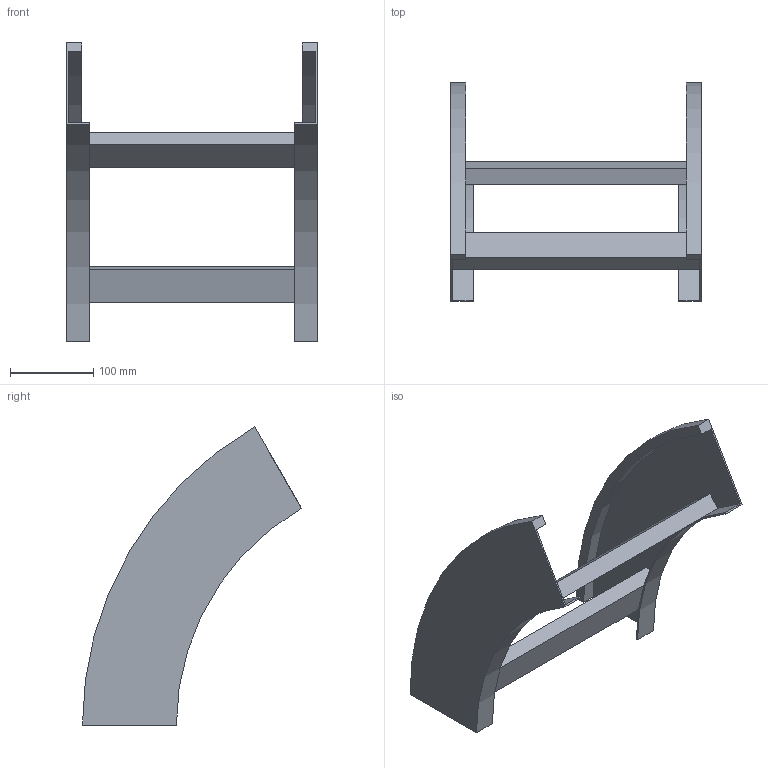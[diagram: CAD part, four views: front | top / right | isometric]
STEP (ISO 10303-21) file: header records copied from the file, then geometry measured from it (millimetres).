
FILE_DESCRIPTION (( 'STEP AP214' ), '1' );
FILE_NAME ('B2_41B3J300.step', '2025-02-21T14:58:50', ( '' ), ( '' ), 'SwSTEP 2.0', 'SolidWorks 2023', '' );
FILE_SCHEMA (( 'AUTOMOTIVE_DESIGN' ));
Length unit declared in the file: millimetre
Products named in the file (3): B2_LONGH.DISCESA_60°_H112.5_R300; B2_41B3J300; TRAVERSINO_300
Assembly tree (4 placements, depth 2):
  B2_41B3J300
    B2_LONGH.DISCESA_60°_H112.5_R300  x2
    TRAVERSINO_300  x2
Bounding box: 300 x 262.5 x 357.24 mm (x, y, z)
Volume: 842382.9 mm3; surface area: 306367.9 mm2
Topology: 4 solids, 4 shells, 32 faces, 72 edges, 48 vertices
Faces by surface type: plane 24, cylinder 8
Entity records: 552 total; most frequent: DIRECTION 90, CARTESIAN_POINT 83, ORIENTED_EDGE 72, EDGE_CURVE 36, AXIS2_PLACEMENT_3D 31, LINE 28, VECTOR 28, VERTEX_POINT 24
